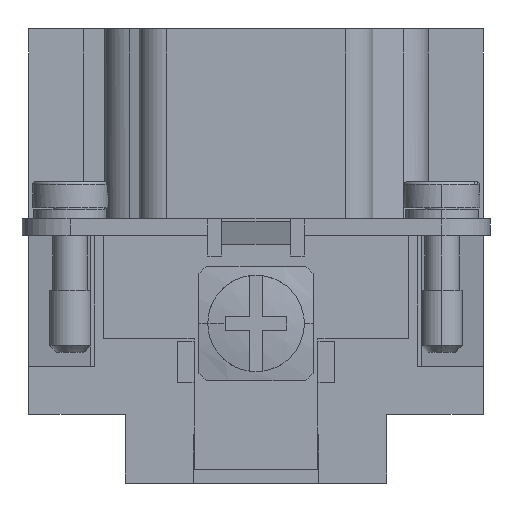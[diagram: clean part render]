
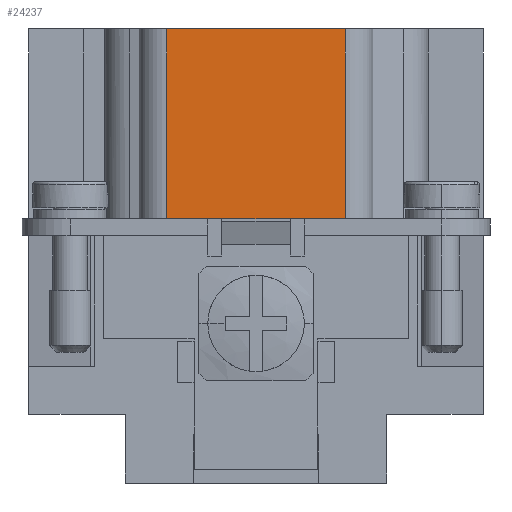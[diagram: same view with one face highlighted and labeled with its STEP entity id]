
A CAD part, left-side view. The second image highlights one B-rep face of the part: STEP entity #24237.
In plain terms, the highlighted planar face has unit normal (-1, 0, 0).
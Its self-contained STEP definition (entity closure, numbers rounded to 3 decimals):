
#11925 = CARTESIAN_POINT ( 'NONE',  ( -41.5, 3.5, 19.2 ) ) ;
#12900 = CARTESIAN_POINT ( 'NONE',  ( -41.5, -3.5, 19.2 ) ) ;
#12905 = DIRECTION ( 'NONE',  ( 0., -1., 0. ) ) ;
#12906 = VECTOR ( 'NONE', #12905, 1000. ) ;
#12907 = CARTESIAN_POINT ( 'NONE',  ( -41.5, -6.5, 19.2 ) ) ;
#12908 = LINE ( 'NONE', #12907, #12906 ) ;
#12909 = CARTESIAN_POINT ( 'NONE',  ( -41.5, -6.5, 19.2 ) ) ;
#13799 = CARTESIAN_POINT ( 'NONE',  ( -41.5, 6.5, 19.2 ) ) ;
#13854 = DIRECTION ( 'NONE',  ( 0., -1., 0. ) ) ;
#13855 = VECTOR ( 'NONE', #13854, 1000. ) ;
#13856 = CARTESIAN_POINT ( 'NONE',  ( -41.5, -6.5, 19.2 ) ) ;
#13857 = LINE ( 'NONE', #13856, #13855 ) ;
#13916 = DIRECTION ( 'NONE',  ( 0., -1., 0. ) ) ;
#13917 = VECTOR ( 'NONE', #13916, 1000. ) ;
#13918 = CARTESIAN_POINT ( 'NONE',  ( -41.5, -6.5, 19.2 ) ) ;
#13925 = LINE ( 'NONE', #13918, #13917 ) ;
#14537 = DIRECTION ( 'NONE',  ( 0., -1., 0. ) ) ;
#14538 = VECTOR ( 'NONE', #14537, 1000. ) ;
#14539 = CARTESIAN_POINT ( 'NONE',  ( -41.5, 0.016, 33. ) ) ;
#14540 = LINE ( 'NONE', #14539, #14538 ) ;
#14542 = CARTESIAN_POINT ( 'NONE',  ( -41.5, -6.5, 33. ) ) ;
#14586 = FACE_OUTER_BOUND ( 'NONE', #24238, .T. ) ;
#14593 = CARTESIAN_POINT ( 'NONE',  ( -41.5, 6.5, 33. ) ) ;
#14594 = DIRECTION ( 'NONE',  ( 0., 0., -1. ) ) ;
#14595 = VECTOR ( 'NONE', #14594, 1000. ) ;
#14596 = CARTESIAN_POINT ( 'NONE',  ( -41.5, 6.5, 19.2 ) ) ;
#14597 = LINE ( 'NONE', #14596, #14595 ) ;
#14621 = DIRECTION ( 'NONE',  ( 0., 0., -1. ) ) ;
#14622 = VECTOR ( 'NONE', #14621, 1000. ) ;
#14623 = CARTESIAN_POINT ( 'NONE',  ( -41.5, -6.5, 19.2 ) ) ;
#14624 = LINE ( 'NONE', #14623, #14622 ) ;
#14625 = DIRECTION ( 'NONE',  ( 0., 0., 1. ) ) ;
#14626 = DIRECTION ( 'NONE',  ( -1., 0., 0. ) ) ;
#14627 = CARTESIAN_POINT ( 'NONE',  ( -41.5, -6.5, 19.2 ) ) ;
#14628 = AXIS2_PLACEMENT_3D ( 'NONE', #14627, #14626, #14625 ) ;
#14629 = PLANE ( 'NONE',  #14628 ) ;
#22426 = VERTEX_POINT ( 'NONE', #11925 ) ;
#23146 = VERTEX_POINT ( 'NONE', #12909 ) ;
#23149 = EDGE_CURVE ( 'NONE', #23156, #23146, #12908, .T. ) ;
#23156 = VERTEX_POINT ( 'NONE', #12900 ) ;
#23680 = VERTEX_POINT ( 'NONE', #13799 ) ;
#23726 = EDGE_CURVE ( 'NONE', #23680, #22426, #13857, .T. ) ;
#23779 = EDGE_CURVE ( 'NONE', #22426, #23156, #13925, .T. ) ;
#24207 = VERTEX_POINT ( 'NONE', #14542 ) ;
#24209 = ORIENTED_EDGE ( 'NONE', *, *, #24211, .F. ) ;
#24211 = EDGE_CURVE ( 'NONE', #24232, #24207, #14540, .T. ) ;
#24212 = ORIENTED_EDGE ( 'NONE', *, *, #24231, .T. ) ;
#24213 = ORIENTED_EDGE ( 'NONE', *, *, #23726, .T. ) ;
#24214 = ORIENTED_EDGE ( 'NONE', *, *, #23779, .T. ) ;
#24231 = EDGE_CURVE ( 'NONE', #24232, #23680, #14597, .T. ) ;
#24232 = VERTEX_POINT ( 'NONE', #14593 ) ;
#24237 = ADVANCED_FACE ( 'NONE', ( #14586 ), #14629, .T. ) ;
#24238 = EDGE_LOOP ( 'NONE', ( #24239, #24240, #24209, #24212, #24213, #24214 ) ) ;
#24239 = ORIENTED_EDGE ( 'NONE', *, *, #23149, .T. ) ;
#24240 = ORIENTED_EDGE ( 'NONE', *, *, #24241, .F. ) ;
#24241 = EDGE_CURVE ( 'NONE', #24207, #23146, #14624, .T. ) ;
